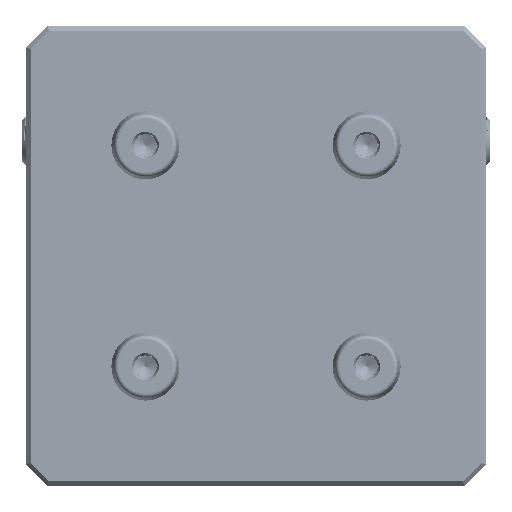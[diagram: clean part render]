
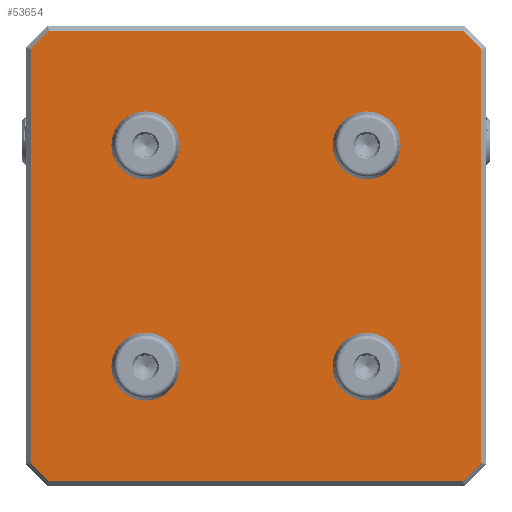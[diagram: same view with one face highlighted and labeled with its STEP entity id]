
A CAD part, front view. The second image highlights one B-rep face of the part: STEP entity #53654.
In plain terms, the highlighted planar face has unit normal (0, -1, 0).
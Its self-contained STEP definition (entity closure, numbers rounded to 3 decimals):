
#8281=DIRECTION('',(-1.,0.,0.));
#8282=VECTOR('',#8281,97.172);
#8283=CARTESIAN_POINT('',(48.586,-1.,45.5));
#8284=LINE('',#8283,#8282);
#8285=DIRECTION('',(-0.707,0.,0.707));
#8286=VECTOR('',#8285,6.243);
#8287=CARTESIAN_POINT('',(53.,-1.,41.086));
#8288=LINE('',#8287,#8286);
#8289=DIRECTION('',(0.,0.,1.));
#8290=VECTOR('',#8289,97.172);
#8291=CARTESIAN_POINT('',(53.,-1.,-56.086));
#8292=LINE('',#8291,#8290);
#8293=DIRECTION('',(0.707,0.,0.707));
#8294=VECTOR('',#8293,6.243);
#8295=CARTESIAN_POINT('',(48.586,-1.,-60.5));
#8296=LINE('',#8295,#8294);
#8297=DIRECTION('',(1.,0.,0.));
#8298=VECTOR('',#8297,97.172);
#8299=CARTESIAN_POINT('',(-48.586,-1.,-60.5));
#8300=LINE('',#8299,#8298);
#8301=DIRECTION('',(-0.707,0.,0.707));
#8302=VECTOR('',#8301,6.243);
#8303=CARTESIAN_POINT('',(-48.586,-1.,-60.5));
#8304=LINE('',#8303,#8302);
#8305=DIRECTION('',(0.,0.,-1.));
#8306=VECTOR('',#8305,97.172);
#8307=CARTESIAN_POINT('',(-53.,-1.,41.086));
#8308=LINE('',#8307,#8306);
#8309=DIRECTION('',(-0.707,0.,-0.707));
#8310=VECTOR('',#8309,6.243);
#8311=CARTESIAN_POINT('',(-48.586,-1.,45.5));
#8312=LINE('',#8311,#8310);
#8313=CARTESIAN_POINT('',(26.,-1.,-33.5));
#8314=DIRECTION('',(0.,1.,0.));
#8315=DIRECTION('',(-0.009,0.,1.));
#8316=AXIS2_PLACEMENT_3D('',#8313,#8314,#8315);
#8318=CARTESIAN_POINT('',(26.,-1.,-33.5));
#8319=DIRECTION('',(0.,1.,0.));
#8320=DIRECTION('',(0.009,0.,-1.));
#8321=AXIS2_PLACEMENT_3D('',#8318,#8319,#8320);
#8323=CARTESIAN_POINT('',(26.,-1.,18.5));
#8324=DIRECTION('',(0.,1.,0.));
#8325=DIRECTION('',(-0.009,0.,1.));
#8326=AXIS2_PLACEMENT_3D('',#8323,#8324,#8325);
#8328=CARTESIAN_POINT('',(26.,-1.,18.5));
#8329=DIRECTION('',(0.,1.,0.));
#8330=DIRECTION('',(0.009,0.,-1.));
#8331=AXIS2_PLACEMENT_3D('',#8328,#8329,#8330);
#8333=CARTESIAN_POINT('',(-26.,-1.,18.5));
#8334=DIRECTION('',(0.,1.,0.));
#8335=DIRECTION('',(-0.009,0.,1.));
#8336=AXIS2_PLACEMENT_3D('',#8333,#8334,#8335);
#8338=CARTESIAN_POINT('',(-26.,-1.,18.5));
#8339=DIRECTION('',(0.,1.,0.));
#8340=DIRECTION('',(0.009,0.,-1.));
#8341=AXIS2_PLACEMENT_3D('',#8338,#8339,#8340);
#8343=CARTESIAN_POINT('',(-26.,-1.,-33.5));
#8344=DIRECTION('',(0.,1.,0.));
#8345=DIRECTION('',(-0.009,0.,1.));
#8346=AXIS2_PLACEMENT_3D('',#8343,#8344,#8345);
#8348=CARTESIAN_POINT('',(-26.,-1.,-33.5));
#8349=DIRECTION('',(0.,1.,0.));
#8350=DIRECTION('',(0.009,0.,-1.));
#8351=AXIS2_PLACEMENT_3D('',#8348,#8349,#8350);
#42292=CARTESIAN_POINT('',(48.586,-1.,45.5));
#42293=CARTESIAN_POINT('',(-48.586,-1.,45.5));
#42294=VERTEX_POINT('',#42292);
#42295=VERTEX_POINT('',#42293);
#42298=CARTESIAN_POINT('',(-53.,-1.,41.086));
#42299=VERTEX_POINT('',#42298);
#42302=CARTESIAN_POINT('',(-53.,-1.,-56.086));
#42303=VERTEX_POINT('',#42302);
#42306=CARTESIAN_POINT('',(-48.586,-1.,-60.5));
#42307=VERTEX_POINT('',#42306);
#42310=CARTESIAN_POINT('',(48.586,-1.,-60.5));
#42311=VERTEX_POINT('',#42310);
#42314=CARTESIAN_POINT('',(53.,-1.,-56.086));
#42315=VERTEX_POINT('',#42314);
#42316=CARTESIAN_POINT('',(53.,-1.,41.086));
#42317=VERTEX_POINT('',#42316);
#47100=CARTESIAN_POINT('',(25.933,-1.,-26.002));
#47101=CARTESIAN_POINT('',(26.067,-1.,-40.998));
#47102=VERTEX_POINT('',#47100);
#47103=VERTEX_POINT('',#47101);
#47242=CARTESIAN_POINT('',(25.933,-1.,25.998));
#47243=CARTESIAN_POINT('',(26.067,-1.,11.002));
#47244=VERTEX_POINT('',#47242);
#47245=VERTEX_POINT('',#47243);
#47384=CARTESIAN_POINT('',(-26.067,-1.,25.998));
#47385=CARTESIAN_POINT('',(-25.933,-1.,11.002));
#47386=VERTEX_POINT('',#47384);
#47387=VERTEX_POINT('',#47385);
#47526=CARTESIAN_POINT('',(-26.067,-1.,-26.002));
#47527=CARTESIAN_POINT('',(-25.933,-1.,-40.998));
#47528=VERTEX_POINT('',#47526);
#47529=VERTEX_POINT('',#47527);
#53610=CARTESIAN_POINT('',(0.,-1.,0.));
#53611=DIRECTION('',(0.,1.,0.));
#53612=DIRECTION('',(1.,0.,0.));
#53613=AXIS2_PLACEMENT_3D('',#53610,#53611,#53612);
#53614=PLANE('',#53613);
#53616=ORIENTED_EDGE('',*,*,#53615,.F.);
#53618=ORIENTED_EDGE('',*,*,#53617,.F.);
#53619=ORIENTED_EDGE('',*,*,#53600,.F.);
#53621=ORIENTED_EDGE('',*,*,#53620,.F.);
#53623=ORIENTED_EDGE('',*,*,#53622,.F.);
#53625=ORIENTED_EDGE('',*,*,#53624,.T.);
#53626=ORIENTED_EDGE('',*,*,#52202,.F.);
#53627=ORIENTED_EDGE('',*,*,#52218,.F.);
#53628=EDGE_LOOP('',(#53616,#53618,#53619,#53621,#53623,#53625,#53626,#53627));
#53629=FACE_OUTER_BOUND('',#53628,.F.);
#53631=ORIENTED_EDGE('',*,*,#53630,.F.);
#53633=ORIENTED_EDGE('',*,*,#53632,.F.);
#53634=EDGE_LOOP('',(#53631,#53633));
#53635=FACE_BOUND('',#53634,.F.);
#53637=ORIENTED_EDGE('',*,*,#53636,.F.);
#53639=ORIENTED_EDGE('',*,*,#53638,.F.);
#53640=EDGE_LOOP('',(#53637,#53639));
#53641=FACE_BOUND('',#53640,.F.);
#53643=ORIENTED_EDGE('',*,*,#53642,.F.);
#53645=ORIENTED_EDGE('',*,*,#53644,.F.);
#53646=EDGE_LOOP('',(#53643,#53645));
#53647=FACE_BOUND('',#53646,.F.);
#53649=ORIENTED_EDGE('',*,*,#53648,.F.);
#53651=ORIENTED_EDGE('',*,*,#53650,.F.);
#53652=EDGE_LOOP('',(#53649,#53651));
#53653=FACE_BOUND('',#53652,.F.);
#53654=ADVANCED_FACE('',(#53629,#53635,#53641,#53647,#53653),#53614,.F.);
#8317=CIRCLE('',#8316,7.498);
#8322=CIRCLE('',#8321,7.498);
#8327=CIRCLE('',#8326,7.498);
#8332=CIRCLE('',#8331,7.498);
#8337=CIRCLE('',#8336,7.498);
#8342=CIRCLE('',#8341,7.498);
#8347=CIRCLE('',#8346,7.498);
#8352=CIRCLE('',#8351,7.498);
#52202=EDGE_CURVE('',#42299,#42303,#8308,.T.);
#52218=EDGE_CURVE('',#42295,#42299,#8312,.T.);
#53600=EDGE_CURVE('',#42315,#42317,#8292,.T.);
#53615=EDGE_CURVE('',#42294,#42295,#8284,.T.);
#53617=EDGE_CURVE('',#42317,#42294,#8288,.T.);
#53620=EDGE_CURVE('',#42311,#42315,#8296,.T.);
#53622=EDGE_CURVE('',#42307,#42311,#8300,.T.);
#53624=EDGE_CURVE('',#42307,#42303,#8304,.T.);
#53630=EDGE_CURVE('',#47102,#47103,#8317,.T.);
#53632=EDGE_CURVE('',#47103,#47102,#8322,.T.);
#53636=EDGE_CURVE('',#47244,#47245,#8327,.T.);
#53638=EDGE_CURVE('',#47245,#47244,#8332,.T.);
#53642=EDGE_CURVE('',#47386,#47387,#8337,.T.);
#53644=EDGE_CURVE('',#47387,#47386,#8342,.T.);
#53648=EDGE_CURVE('',#47528,#47529,#8347,.T.);
#53650=EDGE_CURVE('',#47529,#47528,#8352,.T.);
